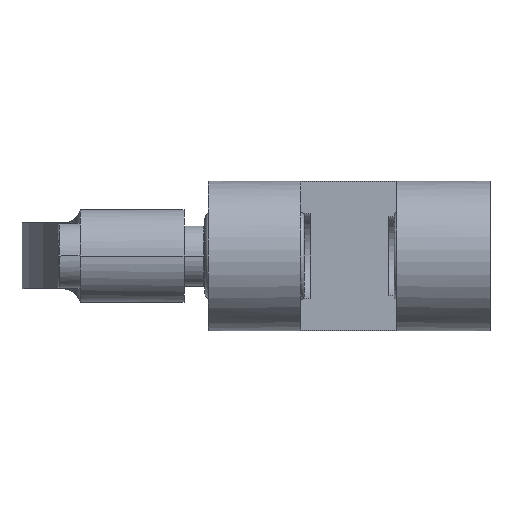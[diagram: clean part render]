
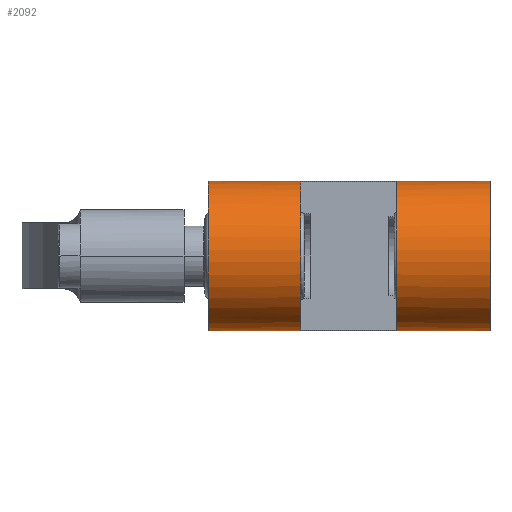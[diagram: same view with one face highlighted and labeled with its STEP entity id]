
A CAD part, front view. The second image highlights one B-rep face of the part: STEP entity #2092.
In plain terms, the highlighted cylindrical face has radius 12.5 mm (diameter 25 mm), a partial arc.
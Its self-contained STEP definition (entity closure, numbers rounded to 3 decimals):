
#5=CARTESIAN_POINT('',(-23.5,3.75,0.));
#6=DIRECTION('',(1.,0.,0.));
#7=DIRECTION('',(0.,0.4,0.917));
#8=AXIS2_PLACEMENT_3D('',#5,#6,#7);
#20=DIRECTION('',(1.,0.,0.));
#21=VECTOR('',#20,47.);
#22=CARTESIAN_POINT('',(-23.5,8.75,-11.456));
#23=LINE('',#22,#21);
#64=DIRECTION('',(1.,0.,0.));
#65=VECTOR('',#64,47.);
#66=CARTESIAN_POINT('',(-23.5,8.75,11.456));
#67=LINE('',#66,#65);
#68=CARTESIAN_POINT('',(-8.,3.75,0.));
#69=DIRECTION('',(1.,0.,0.));
#70=DIRECTION('',(0.,-0.16,0.987));
#71=AXIS2_PLACEMENT_3D('',#68,#69,#70);
#73=DIRECTION('',(1.,0.,0.));
#74=VECTOR('',#73,16.);
#75=CARTESIAN_POINT('',(-8.,1.75,-12.339));
#76=LINE('',#75,#74);
#77=CARTESIAN_POINT('',(8.,3.75,0.));
#78=DIRECTION('',(1.,0.,0.));
#79=DIRECTION('',(0.,-0.16,0.987));
#80=AXIS2_PLACEMENT_3D('',#77,#78,#79);
#82=DIRECTION('',(-1.,0.,0.));
#83=VECTOR('',#82,16.);
#84=CARTESIAN_POINT('',(8.,1.75,12.339));
#85=LINE('',#84,#83);
#90=CARTESIAN_POINT('',(23.5,3.75,0.));
#91=DIRECTION('',(1.,0.,0.));
#92=DIRECTION('',(0.,0.4,0.917));
#93=AXIS2_PLACEMENT_3D('',#90,#91,#92);
#1703=CARTESIAN_POINT('',(-23.5,8.75,-11.456));
#1704=CARTESIAN_POINT('',(-23.5,8.75,11.456));
#1705=VERTEX_POINT('',#1703);
#1706=VERTEX_POINT('',#1704);
#1707=CARTESIAN_POINT('',(23.5,8.75,-11.456));
#1708=CARTESIAN_POINT('',(23.5,8.75,11.456));
#1709=VERTEX_POINT('',#1707);
#1710=VERTEX_POINT('',#1708);
#1711=CARTESIAN_POINT('',(-8.,1.75,12.339));
#1712=CARTESIAN_POINT('',(-8.,1.75,-12.339));
#1713=VERTEX_POINT('',#1711);
#1714=VERTEX_POINT('',#1712);
#1715=CARTESIAN_POINT('',(8.,1.75,12.339));
#1716=CARTESIAN_POINT('',(8.,1.75,-12.339));
#1717=VERTEX_POINT('',#1715);
#1718=VERTEX_POINT('',#1716);
#2070=CARTESIAN_POINT('',(-23.5,3.75,0.));
#2071=DIRECTION('',(1.,0.,0.));
#2072=DIRECTION('',(0.,-1.,0.));
#2073=AXIS2_PLACEMENT_3D('',#2070,#2071,#2072);
#2074=CYLINDRICAL_SURFACE('',#2073,12.5);
#2075=ORIENTED_EDGE('',*,*,#2020,.F.);
#2076=ORIENTED_EDGE('',*,*,#2041,.T.);
#2078=ORIENTED_EDGE('',*,*,#2077,.T.);
#2079=ORIENTED_EDGE('',*,*,#2037,.F.);
#2080=EDGE_LOOP('',(#2075,#2076,#2078,#2079));
#2081=FACE_OUTER_BOUND('',#2080,.F.);
#2083=ORIENTED_EDGE('',*,*,#2082,.T.);
#2085=ORIENTED_EDGE('',*,*,#2084,.T.);
#2087=ORIENTED_EDGE('',*,*,#2086,.F.);
#2089=ORIENTED_EDGE('',*,*,#2088,.T.);
#2090=EDGE_LOOP('',(#2083,#2085,#2087,#2089));
#2091=FACE_BOUND('',#2090,.F.);
#2092=ADVANCED_FACE('',(#2081,#2091),#2074,.T.);
#9=CIRCLE('',#8,12.5);
#72=CIRCLE('',#71,12.5);
#81=CIRCLE('',#80,12.5);
#94=CIRCLE('',#93,12.5);
#2020=EDGE_CURVE('',#1706,#1705,#9,.T.);
#2037=EDGE_CURVE('',#1705,#1709,#23,.T.);
#2041=EDGE_CURVE('',#1706,#1710,#67,.T.);
#2077=EDGE_CURVE('',#1710,#1709,#94,.T.);
#2082=EDGE_CURVE('',#1713,#1714,#72,.T.);
#2084=EDGE_CURVE('',#1714,#1718,#76,.T.);
#2086=EDGE_CURVE('',#1717,#1718,#81,.T.);
#2088=EDGE_CURVE('',#1717,#1713,#85,.T.);
